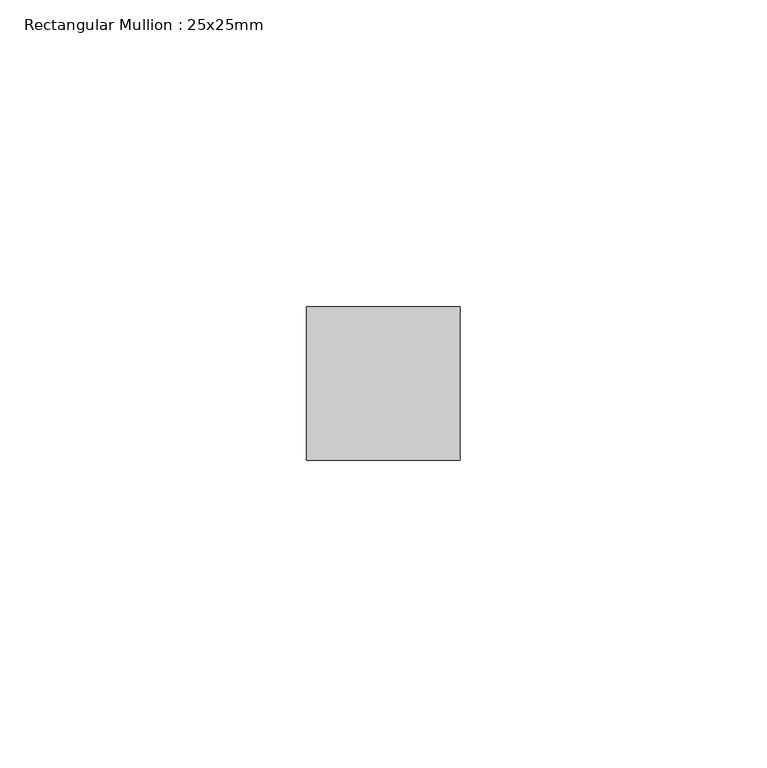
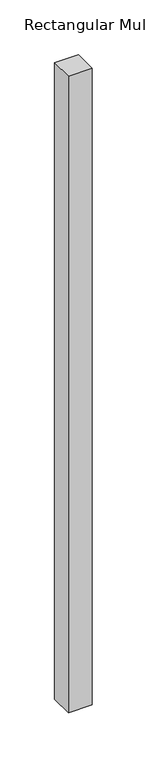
"""IFC4 building model written with IfcOpenShell, lengths in millimetres: member geometry, Rectangular Mullion : 25x25mm."""

from ifc_helpers import new_model, si_unit, frame, origin, place, context, project, spatial, polyline, outline, extrude, source, transform, mapped, element, save


def rectangular_mullion_25x25mm_6d395d07(model_context):
    return source(origin(), model_context, "Body", "SweptSolid", [
        extrude(outline(polyline([(0.0, 0.5), (0.0, -24.5), (-25.0, -24.5), (-25.0, 0.5), (0.0, 0.5)])), frame((0.0, 0.0, -709.1666668), z_axis=(0.0, 0.0, 1.0), x_axis=(1.0, 0.0, 0.0)), (0.0, 0.0, 1.0), 709.1666668),
    ])


if __name__ == "__main__":
    model = new_model("IFC4")
    model_context = context("Model", 3, world=origin())
    ifc_project = project(units=[si_unit("LENGTHUNIT", "METRE", prefix="MILLI")], contexts=[model_context])
    site = spatial("IfcSite", under=ifc_project)
    building = spatial("IfcBuilding", under=site)
    placement = place(None, origin())
    rectangular_mullion_25x25mm_shape = rectangular_mullion_25x25mm_6d395d07(model_context)
    element("IfcMember", 1, ObjectType="Rectangular Mullion : 25x25mm", at=placement, inside=building, context=model_context, shape_type="MappedRepresentation", body=[
        mapped(rectangular_mullion_25x25mm_shape, transform((0.0, 0.0, 0.0), x_axis=(1.0, 0.0, 0.0), y_axis=(0.0, 1.0, 0.0), z_axis=(0.0, 0.0, 1.0))),
    ])
    save(model, "model.ifc")
